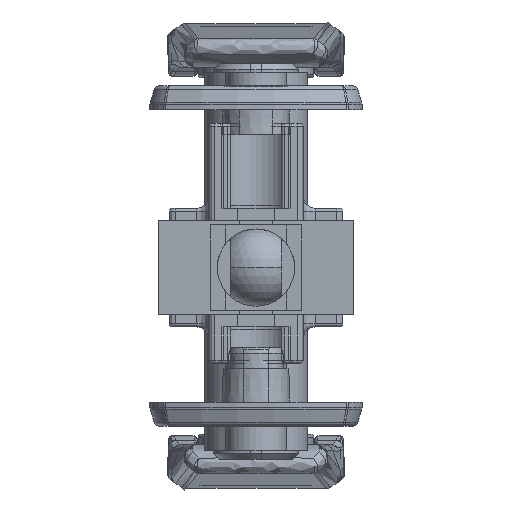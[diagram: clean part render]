
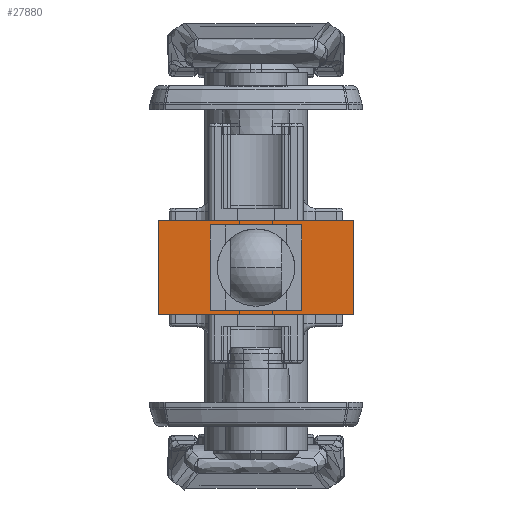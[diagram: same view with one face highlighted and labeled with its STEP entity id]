
A CAD part, front view. The second image highlights one B-rep face of the part: STEP entity #27880.
In plain terms, the highlighted planar face has unit normal (0, -1, 0).
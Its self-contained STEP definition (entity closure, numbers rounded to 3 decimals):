
#864 = CARTESIAN_POINT ( 'NONE',  ( 7., -199.25, 6.25 ) ) ;
#1115 = DIRECTION ( 'NONE',  ( 0., 0., -1. ) ) ;
#1256 = CARTESIAN_POINT ( 'NONE',  ( -7., -199.25, -6.25 ) ) ;
#2148 = DIRECTION ( 'NONE',  ( 1., 0., 0. ) ) ;
#3078 = ORIENTED_EDGE ( 'NONE', *, *, #29685, .T. ) ;
#3798 = VERTEX_POINT ( 'NONE', #864 ) ;
#4653 = DIRECTION ( 'NONE',  ( 1., 0., 0. ) ) ;
#4813 = CARTESIAN_POINT ( 'NONE',  ( 16., -199.25, 7.75 ) ) ;
#5099 = VECTOR ( 'NONE', #13464, 1000. ) ;
#6039 = VECTOR ( 'NONE', #35090, 1000. ) ;
#7503 = VERTEX_POINT ( 'NONE', #52202 ) ;
#7878 = CARTESIAN_POINT ( 'NONE',  ( 7., -199.25, 6.25 ) ) ;
#8662 = LINE ( 'NONE', #4813, #55107 ) ;
#9392 = LINE ( 'NONE', #33075, #14547 ) ;
#9602 = VERTEX_POINT ( 'NONE', #11171 ) ;
#10335 = DIRECTION ( 'NONE',  ( 0., 1., 0. ) ) ;
#11171 = CARTESIAN_POINT ( 'NONE',  ( -16., -199.25, 7.75 ) ) ;
#11228 = CARTESIAN_POINT ( 'NONE',  ( -16., -199.25, 7.75 ) ) ;
#11677 = EDGE_CURVE ( 'NONE', #22807, #7503, #8662, .T. ) ;
#13464 = DIRECTION ( 'NONE',  ( 0., 0., 1. ) ) ;
#13969 = ORIENTED_EDGE ( 'NONE', *, *, #24085, .F. ) ;
#14547 = VECTOR ( 'NONE', #36630, 1000. ) ;
#15927 = CARTESIAN_POINT ( 'NONE',  ( 16., -199.25, 7.75 ) ) ;
#16830 = EDGE_CURVE ( 'NONE', #39852, #36087, #37353, .T. ) ;
#18711 = ORIENTED_EDGE ( 'NONE', *, *, #23856, .F. ) ;
#19890 = ORIENTED_EDGE ( 'NONE', *, *, #11677, .F. ) ;
#20129 = DIRECTION ( 'NONE',  ( 0., 0., 1. ) ) ;
#21858 = LINE ( 'NONE', #49360, #36884 ) ;
#22807 = VERTEX_POINT ( 'NONE', #15927 ) ;
#23596 = CARTESIAN_POINT ( 'NONE',  ( -16., -199.25, 7.75 ) ) ;
#23856 = EDGE_CURVE ( 'NONE', #34755, #39852, #9392, .T. ) ;
#24085 = EDGE_CURVE ( 'NONE', #3798, #34755, #43981, .T. ) ;
#24226 = VERTEX_POINT ( 'NONE', #32699 ) ;
#24452 = CARTESIAN_POINT ( 'NONE',  ( 7., -199.25, -6.25 ) ) ;
#24672 = VECTOR ( 'NONE', #33320, 1000. ) ;
#24708 = ORIENTED_EDGE ( 'NONE', *, *, #16830, .F. ) ;
#27039 = DIRECTION ( 'NONE',  ( 0., 0., -1. ) ) ;
#27316 = VECTOR ( 'NONE', #2148, 1000. ) ;
#27404 = CARTESIAN_POINT ( 'NONE',  ( 7., -199.25, 6.25 ) ) ;
#27529 = CARTESIAN_POINT ( 'NONE',  ( -7., -199.25, -6.25 ) ) ;
#27880 = ADVANCED_FACE ( 'NONE', ( #33728, #29001 ), #47062, .F. ) ;
#28600 = EDGE_LOOP ( 'NONE', ( #18711, #13969, #42635, #24708 ) ) ;
#29001 = FACE_OUTER_BOUND ( 'NONE', #41509, .T. ) ;
#29685 = EDGE_CURVE ( 'NONE', #9602, #24226, #41342, .T. ) ;
#31862 = VECTOR ( 'NONE', #1115, 1000. ) ;
#32476 = CARTESIAN_POINT ( 'NONE',  ( -16., -199.25, 7.75 ) ) ;
#32699 = CARTESIAN_POINT ( 'NONE',  ( -16., -199.25, -7.75 ) ) ;
#33075 = CARTESIAN_POINT ( 'NONE',  ( -7., -199.25, -6.25 ) ) ;
#33320 = DIRECTION ( 'NONE',  ( 1., 0., 0. ) ) ;
#33728 = FACE_BOUND ( 'NONE', #28600, .T. ) ;
#34659 = EDGE_CURVE ( 'NONE', #24226, #7503, #21858, .T. ) ;
#34755 = VERTEX_POINT ( 'NONE', #51110 ) ;
#35090 = DIRECTION ( 'NONE',  ( -1., 0., 0. ) ) ;
#36087 = VERTEX_POINT ( 'NONE', #24452 ) ;
#36630 = DIRECTION ( 'NONE',  ( 0., 0., -1. ) ) ;
#36884 = VECTOR ( 'NONE', #4653, 1000. ) ;
#37353 = LINE ( 'NONE', #1256, #27316 ) ;
#37443 = LINE ( 'NONE', #23596, #24672 ) ;
#39852 = VERTEX_POINT ( 'NONE', #27529 ) ;
#40105 = AXIS2_PLACEMENT_3D ( 'NONE', #11228, #10335, #20129 ) ;
#41342 = LINE ( 'NONE', #32476, #31862 ) ;
#41509 = EDGE_LOOP ( 'NONE', ( #46630, #19890, #51492, #3078 ) ) ;
#42142 = EDGE_CURVE ( 'NONE', #36087, #3798, #53725, .T. ) ;
#42635 = ORIENTED_EDGE ( 'NONE', *, *, #42142, .F. ) ;
#43981 = LINE ( 'NONE', #7878, #6039 ) ;
#46630 = ORIENTED_EDGE ( 'NONE', *, *, #34659, .T. ) ;
#47062 = PLANE ( 'NONE',  #40105 ) ;
#49360 = CARTESIAN_POINT ( 'NONE',  ( -16., -199.25, -7.75 ) ) ;
#51110 = CARTESIAN_POINT ( 'NONE',  ( -7., -199.25, 6.25 ) ) ;
#51492 = ORIENTED_EDGE ( 'NONE', *, *, #55802, .F. ) ;
#52202 = CARTESIAN_POINT ( 'NONE',  ( 16., -199.25, -7.75 ) ) ;
#53725 = LINE ( 'NONE', #27404, #5099 ) ;
#55107 = VECTOR ( 'NONE', #27039, 1000. ) ;
#55802 = EDGE_CURVE ( 'NONE', #9602, #22807, #37443, .T. ) ;
